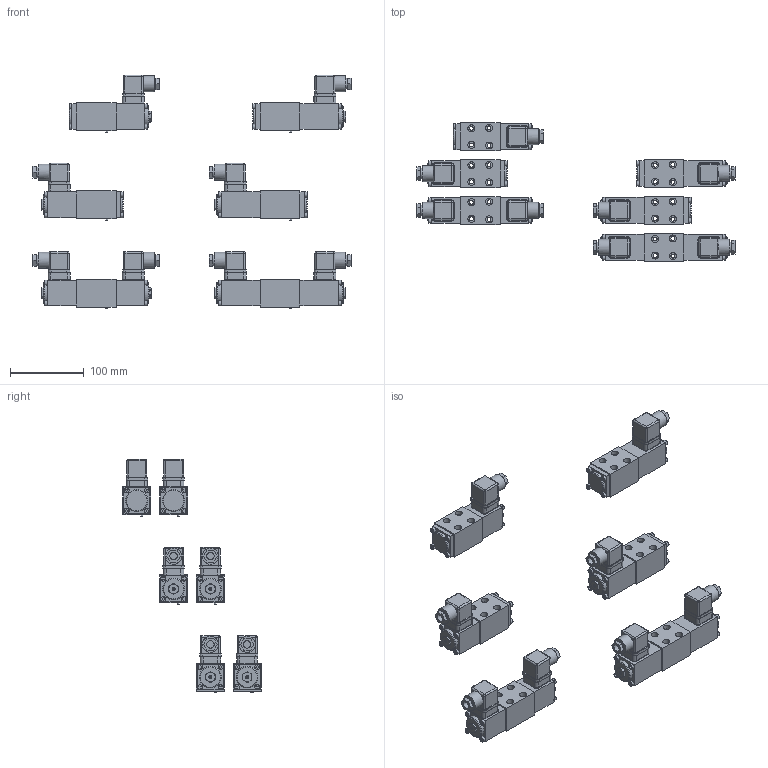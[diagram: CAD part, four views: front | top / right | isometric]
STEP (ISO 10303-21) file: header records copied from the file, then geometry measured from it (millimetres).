
FILE_DESCRIPTION(('Bauteilbeschreibung','HiCAD-Model','HiCAD-STEP-TRANSLATION','Bauteilbeschreibung'),'2;1');
FILE_NAME('K:/STEP_DXF/WD_FB04.STP','2006-07-21T12:58:03+00:00',('Konstrukteur'),('Konstrukteur Firma GmbH'),'HiCAD3 V1210 STEP 1.6.2005','HiCAD3 V1210','confidential');
FILE_SCHEMA(('AUTOMOTIVE_DESIGN { 1 2 10303 214 0 1 1 1 }'));
Products named in the file (145): WD_FB04; WDMFB04; WDMFB04 ; F4767A4E; IN6KTM4; IN6KTM40; IN6KTM41; IN6KTM42; IN6KTM43; D82DEE49; IN6KTM44; IN6KTM45; IN6KTM46; IN6KTM47; IN6KTM48; A71A7FCB; A86115F3; AD54FEE3; CA9517B3; CA9517B30; DICHTUNG; D82DEE490; A71A7FCB0; A86115F30; CA9517B31; CA9517B32; DICHTUNG0; AD54FEE30; AECC9F3B; WDMFB04__1; AE0B6A90; IN6KTM49; IN6KTM410; IN6KTM411; IN6KTM412; IN6KTM413; A71A7FCB1; A86115F31; CA9517B33; CA9517B34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
Assembly tree (144 placements, depth 7):
  WD_FB04
    WDMFB04
      WDMFB04 
        F4767A4E
          IN6KTM4
            IN6KTM40
            IN6KTM41
            IN6KTM42
            IN6KTM43
          D82DEE49
          IN6KTM44
            IN6KTM45
            IN6KTM46
            IN6KTM47
            IN6KTM48
          A71A7FCB
            A86115F3
            AD54FEE3
            CA9517B3
            CA9517B30
              DICHTUNG
          D82DEE490
          A71A7FCB0
            A86115F30
            CA9517B31
            CA9517B32
              DICHTUNG0
            AD54FEE30
          AECC9F3B
      WDMFB04__1
        AE0B6A90
          IN6KTM49
            IN6KTM410
            IN6KTM411
            IN6KTM412
            IN6KTM413
          A71A7FCB1
            A86115F31
            CA9517B33
            CA9517B34
              DICHTUNG1
            AD54FEE31
          D82DEE491
          AA75327F
          AA75327F0
            IN6KTM414
              IN6KTM415
              IN6KTM416
              IN6KTM417
              IN6KTM418
          AECC9F3B0
      WDMFB04__2
        B6D6D505
          IN6KTM419
            IN6KTM420
            IN6KTM421
            IN6KTM422
            IN6KTM423
          A71A7FCB2
            A86115F32
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Bounding box: 432.5 x 188 x 318 mm (x, y, z)
Volume: 1231146.8 mm3; surface area: 314877.6 mm2
Topology: 122 solids, 122 shells, 2100 faces, 4760 edges, 3170 vertices
Faces by surface type: plane 1310, cylinder 618, cone 124, sphere 32, torus 16
Full cylindrical faces by diameter (mm): 1.5 x24, 2.5 x8, 2.9 x8, 3 x30, 4 x52, 4.2 x8, 4.5 x52, 5.3 x24, 6.8 x8, 7 x48, 8 x24, 9.5 x48, 10 x8, 12 x8, 12.5 x8, 15 x8, 22 x8, 29.5 x8, 30 x4, 32 x8
Entity records: 100386 total; most frequent: CARTESIAN_POINT 14196, DIRECTION 10024, ORIENTED_EDGE 8160, COLOUR_RGB 6278, PRESENTATION_STYLE_ASSIGNMENT 6278, OVER_RIDING_STYLED_ITEM 6180, CURVE_STYLE 4080, DRAUGHTING_PRE_DEFINED_CURVE_FONT 4080
